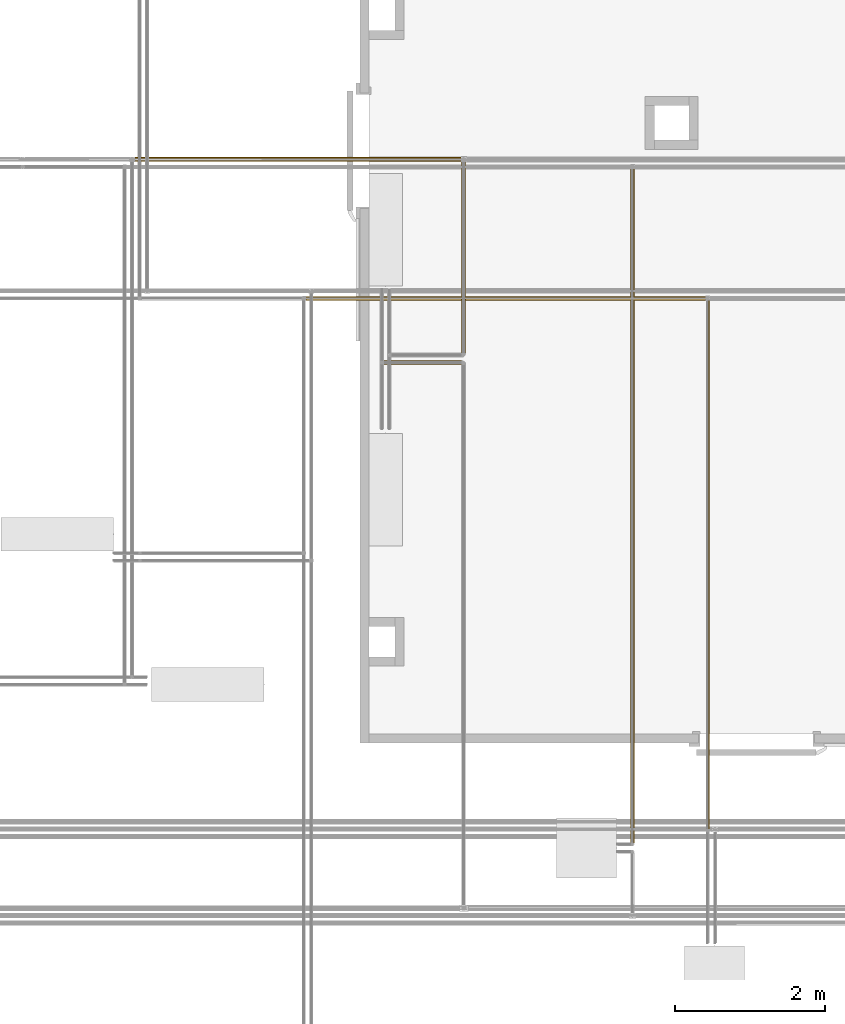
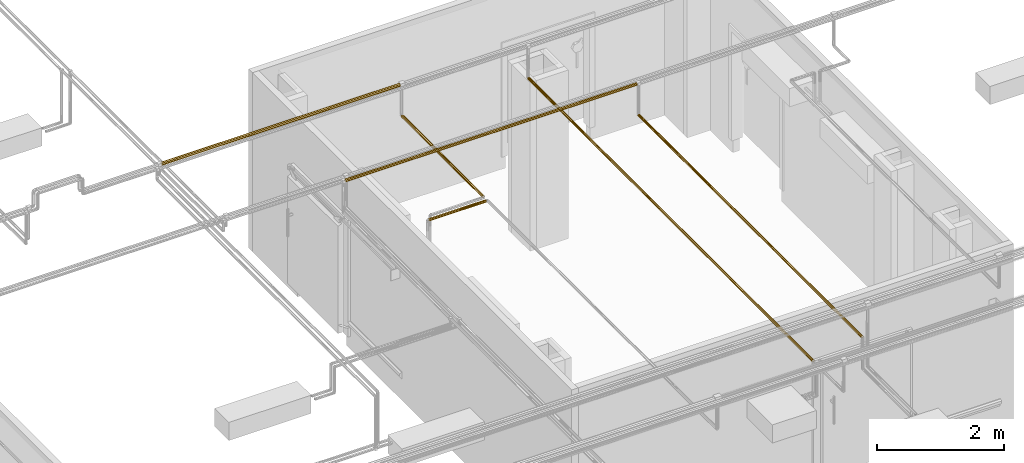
# One storey, part 123 of 652: 6 coverings.
"""IFC2X3 building model written with IfcOpenShell, lengths in millimetres."""

from ifc_helpers import new_model, entity, si_unit, converted_unit, direction, frame, origin, place, context, subcontext, project, spatial, faceted_brep, material, type_object, element, save


model = new_model("IFC2X3")

# Units and contexts
model_context = context("Model", 3, precision=0.01, world=frame((0.0, 0.0, 308426.39999999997)), true_north=direction((6.123233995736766e-17, 1.0)))
plan_context = context("Plan", 3, precision=0.01, world=frame((0.0, 0.0, 308426.39999999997)), true_north=direction((6.123233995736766e-17, 1.0)))
body_context = subcontext(model_context, "Body", "Model", "MODEL_VIEW")
ifc_project = project(units=[si_unit("LENGTHUNIT", "METRE", prefix="MILLI"), si_unit("AREAUNIT", "SQUARE_METRE"), si_unit("VOLUMEUNIT", "CUBIC_METRE"), converted_unit("PLANEANGLEUNIT", "DEGREE", entity("IfcPlaneAngleMeasure", 0.017453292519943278), si_unit("PLANEANGLEUNIT", "RADIAN"), dimensions=[0, 0, 0, 0, 0, 0, 0])], contexts=[model_context, plan_context])

# Site, building, storey
site_placement = place(None, origin())
site = spatial("IfcSite", under=ifc_project, at=site_placement, Name="Default", CompositionType="ELEMENT")
building_placement = place(site_placement, origin())
building = spatial("IfcBuilding", under=site, at=building_placement, CompositionType="ELEMENT")
storey_placement = place(building_placement, frame((0.0, 0.0, 1730.6999999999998)))
storey = spatial("IfcBuildingStorey", under=building, at=storey_placement, Name="EG_Produktion_FFB", CompositionType="ELEMENT", Elevation=1730.6999999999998)

# Coverings
ifc_material = material(Name="Dämmung - Armaflex-Schlauch")
covering_type = type_object("IfcCoveringType", Name="Rohrdämmung außen:Armaflex-Schlauch", PredefinedType="INSULATION")
covering_1_placement = place(storey_placement, frame((40357.04824999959, 69883.29222776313, 3931.707772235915)))
element("IfcCovering", 1, at=covering_1_placement, inside=storey, type_object=covering_type, material=ifc_material, Name="Rohrdämmung außen:Armaflex-Schlauch", ObjectType="Rohrdämmung außen:Armaflex-Schlauch", PredefinedType="INSULATION", context=body_context, shape_type="Brep", body=[
    faceted_brep([(0.0, 1.5952722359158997, -31.707772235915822), (0.0, 4.36535862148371, -25.02019211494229), (0.0, 6.005145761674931, -21.06139576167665), (0.0, 8.210082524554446, -15.738207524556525), (0.0, 10.415019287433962, -10.415019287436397), (0.0, 15.738207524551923, -8.210082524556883), (0.0, 21.061395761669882, -6.005145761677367), (0.0, 26.384583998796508, -3.800208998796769), (0.0, 31.70777223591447, -1.5952722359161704), (0.0, 38.39535235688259, -4.36535862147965), (0.0, 42.35414871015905, -6.005145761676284), (0.0, 47.67733694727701, -8.210082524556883), (0.0, 53.000525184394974, -10.415019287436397), (0.0, 55.20546194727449, -15.738207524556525), (0.0, 57.410398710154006, -21.06139576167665), (0.0, 59.615335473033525, -26.384583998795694), (0.0, 61.82027223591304, -31.707772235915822), (0.0, 59.615335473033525, -37.03096047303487), (0.0, 57.410398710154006, -42.354148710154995), (0.0, 55.20546194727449, -47.67733694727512), (0.0, 53.000525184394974, -53.000525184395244), (0.0, 47.67733694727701, -55.20546194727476), (0.0, 42.35414871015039, -57.41039871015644), (0.0, 37.03096047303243, -59.615335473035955), (0.0, 31.70777223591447, -61.820272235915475), (0.0, 25.02019211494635, -59.050185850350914), (0.0, 21.061395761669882, -57.41039871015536), (0.0, 15.738207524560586, -55.20546194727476), (0.0, 10.415019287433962, -53.000525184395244), (0.0, 8.210082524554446, -47.67733694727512), (0.0, 6.005145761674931, -42.354148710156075), (0.0, 3.8002089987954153, -37.03096047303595), (4338.2159331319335, 15.738207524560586, -55.205461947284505), (4338.2159331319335, 21.06139576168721, -57.41039871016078), (4338.2159331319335, 26.384583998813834, -59.61533547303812), (4338.2159331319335, 31.707772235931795, -61.82027223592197), (4338.2159331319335, 38.39535235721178, -59.05018585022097), (4338.2159331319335, 45.082932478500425, -56.28009946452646), (4338.2159331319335, 53.000525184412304, -53.000525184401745), (4338.2159331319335, 55.205461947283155, -47.677336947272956), (4338.215933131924, 57.410398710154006, -42.35414871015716), (4338.2159331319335, 59.615335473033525, -37.030960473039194), (4338.2159331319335, 61.82027223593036, -31.70777223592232), (4338.2159331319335, 59.05018585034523, -25.02019211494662), (4338.2159331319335, 56.280099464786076, -18.332611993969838), (4338.2159331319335, 53.000525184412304, -10.415019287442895), (4338.2159331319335, 47.677336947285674, -8.210082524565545), (4338.2159331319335, 42.35414871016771, -6.005145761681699), (4338.2159331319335, 37.03096047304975, -3.8002089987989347), (4338.2159331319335, 31.707772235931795, -1.5952722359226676), (4338.2159331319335, 25.020192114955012, -4.36535862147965), (4338.2159331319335, 18.332611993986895, -7.135445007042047), (4338.2159331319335, 10.415019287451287, -10.415019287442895), (4338.2159331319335, 8.21008252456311, -15.738207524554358), (4338.215933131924, 6.005145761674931, -21.06139576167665), (4338.2159331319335, 3.8002089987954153, -26.384583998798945), (4338.2159331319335, 1.5952722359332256, -31.70777223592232), (4338.2159331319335, 4.365358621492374, -38.395352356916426), (4338.2159331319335, 7.135445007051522, -45.08293247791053), (4338.2159331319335, 10.415019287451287, -53.000525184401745)], [[[0, 1, 2, 3, 4, 5, 6, 7, 8, 9, 10, 11, 12, 13, 14, 15, 16, 17, 18, 19, 20, 21, 22, 23, 24, 25, 26, 27, 28, 29, 30, 31]], [[32, 33, 34, 35, 36, 37, 38, 39, 40, 41, 42, 43, 44, 45, 46, 47, 48, 49, 50, 51, 52, 53, 54, 55, 56, 57, 58, 59]], [[40, 39, 38, 20, 19, 18, 17, 16, 42, 41]], [[38, 37, 36, 35, 24, 23, 22, 21, 20]], [[56, 0, 31, 30, 29, 28, 59, 58, 57]], [[27, 26, 25, 24, 35, 34, 33, 32, 59, 28]], [[49, 8, 7, 6, 5, 4, 52, 51, 50]], [[3, 2, 1, 0, 56, 55, 54, 53, 52, 4]], [[42, 16, 15, 14, 13, 12, 45, 44, 43]], [[11, 10, 9, 8, 49, 48, 47, 46, 45, 12]]]),
])
covering_2_placement = place(storey_placement, frame((42633.34874999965, 68036.46722776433, 3928.532772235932)))
element("IfcCovering", 2, at=covering_2_placement, inside=storey, type_object=covering_type, material=ifc_material, Name="Rohrdämmung außen:Armaflex-Schlauch", ObjectType="Rohrdämmung außen:Armaflex-Schlauch", PredefinedType="INSULATION", context=body_context, shape_type="Brep", body=[
    faceted_brep([(0.0, 47.5804611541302, -47.58046115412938), (0.0, 42.81853892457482, -49.552913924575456), (0.0, 38.05661669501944, -51.52536669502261), (0.0, 33.29469446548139, -53.49781946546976), (0.0, 28.532772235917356, -55.470272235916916), (0.0, 23.91722883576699, -53.558451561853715), (0.0, 19.008927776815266, -51.52536669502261), (0.0, 14.247005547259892, -49.552913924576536), (0.0, 9.485083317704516, -47.58046115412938), (0.0, 7.512630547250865, -42.818538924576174), (0.0, 5.54017777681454, -38.05661669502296), (0.0, 3.567725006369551, -33.29469446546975), (0.0, 1.5952722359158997, -28.532772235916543), (0.0, 3.507092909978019, -23.91722883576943), (0.0, 5.54017777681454, -19.008927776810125), (0.0, 7.512630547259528, -14.247005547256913), (0.0, 9.485083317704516, -9.485083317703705), (0.0, 14.247005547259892, -7.51263054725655), (0.0, 19.008927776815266, -5.540177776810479), (0.0, 23.77085000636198, -3.567725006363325), (0.0, 28.532772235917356, -1.5952722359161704), (0.0, 33.14831563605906, -3.5070929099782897), (0.0, 38.05661669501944, -5.540177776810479), (0.0, 42.81853892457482, -7.51263054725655), (0.0, 47.5804611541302, -9.485083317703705), (0.0, 49.552913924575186, -14.247005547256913), (0.0, 51.525366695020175, -19.008927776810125), (0.0, 53.497819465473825, -23.770850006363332), (0.0, 55.47027223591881, -28.532772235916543), (0.0, 53.497819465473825, -33.29469446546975), (0.0, 51.525366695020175, -38.05661669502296), (0.0, 49.552913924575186, -42.818538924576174), (5318.302500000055, 9.485083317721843, -9.485083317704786), (5318.302500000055, 7.512630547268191, -14.247005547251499), (5318.302500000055, 5.54017777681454, -19.008927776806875), (5318.302500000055, 3.567725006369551, -23.770850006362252), (5318.302500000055, 1.5952722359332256, -28.532772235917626), (5318.302500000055, 3.5070929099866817, -33.14831563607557), (5318.302500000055, 5.418913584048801, -37.76385903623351), (5318.302500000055, 7.451998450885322, -42.67216009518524), (5318.302500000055, 9.485083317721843, -47.58046115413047), (5318.302500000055, 14.247005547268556, -49.55291392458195), (5318.302500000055, 19.00892777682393, -51.52536669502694), (5318.302500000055, 23.770850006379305, -53.49781946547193), (5318.302500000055, 28.532772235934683, -55.470272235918), (5318.302500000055, 33.14831563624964, -53.55845156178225), (5318.302500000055, 37.763859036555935, -51.646630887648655), (5318.302500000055, 42.67216009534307, -49.61354602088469), (5318.302500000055, 47.58046115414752, -47.58046115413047), (5318.302500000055, 49.55291392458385, -42.81853892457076), (5318.302500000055, 51.525366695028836, -38.05661669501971), (5318.302500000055, 53.497819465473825, -33.29469446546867), (5318.302500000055, 55.470272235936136, -28.532772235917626), (5318.302500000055, 53.55845156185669, -23.91722883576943), (5318.302500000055, 51.64663088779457, -19.30168543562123), (5318.302500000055, 49.613546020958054, -14.39338437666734), (5318.302500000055, 47.58046115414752, -9.485083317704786), (5318.302500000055, 42.81853892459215, -7.512630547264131), (5318.302500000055, 38.05661669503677, -5.540177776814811), (5318.302500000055, 33.29469446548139, -3.56772500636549), (5318.302500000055, 28.532772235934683, -1.5952722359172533), (5318.302500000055, 23.917228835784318, -3.5070929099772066), (5318.302500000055, 19.301685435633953, -5.4189135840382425), (5318.302500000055, 14.39338437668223, -7.451998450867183)], [[[0, 1, 2, 3, 4, 5, 6, 7, 8, 9, 10, 11, 12, 13, 14, 15, 16, 17, 18, 19, 20, 21, 22, 23, 24, 25, 26, 27, 28, 29, 30, 31]], [[32, 33, 34, 35, 36, 37, 38, 39, 40, 41, 42, 43, 44, 45, 46, 47, 48, 49, 50, 51, 52, 53, 54, 55, 56, 57, 58, 59, 60, 61, 62, 63]], [[50, 49, 48, 0, 31, 30, 29, 28, 52, 51]], [[46, 45, 44, 4, 3, 2, 1, 0, 48, 47]], [[5, 4, 44, 43, 42, 41, 40, 8, 7, 6]], [[8, 40, 39, 38, 37, 36, 12, 11, 10, 9]], [[13, 12, 36, 35, 34, 33, 32, 16, 15, 14]], [[16, 32, 63, 62, 61, 60, 20, 19, 18, 17]], [[21, 20, 60, 59, 58, 57, 56, 24, 23, 22]], [[24, 56, 55, 54, 53, 52, 28, 27, 26, 25]]]),
])
covering_3_placement = place(storey_placement, frame((44705.367160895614, 67333.37172776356, 3273.0547277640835)))
element("IfcCovering", 3, at=covering_3_placement, inside=storey, type_object=covering_type, material=ifc_material, Name="Rohrdämmung außen:Armaflex-Schlauch", ObjectType="Rohrdämmung außen:Armaflex-Schlauch", PredefinedType="INSULATION", context=body_context, shape_type="Brep", body=[
    faceted_brep([(52.29527223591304, 1.5952722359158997, 26.94527223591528), (50.43906146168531, 1.5952722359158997, 31.426561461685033), (48.582850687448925, 1.5952722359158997, 35.90785068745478), (46.72663991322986, 1.5952722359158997, 40.38913991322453), (44.87042913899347, 1.5952722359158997, 44.87042913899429), (40.38913991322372, 1.5952722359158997, 46.726639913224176), (35.90785068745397, 1.5952722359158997, 48.58285068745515), (31.42656146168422, 1.5952722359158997, 50.43906146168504), (26.94527223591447, 1.5952722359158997, 52.29527223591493), (22.86881534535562, 1.5952722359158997, 50.81023609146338), (18.792358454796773, 1.5952722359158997, 49.32519994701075), (14.715901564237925, 1.5952722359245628, 47.840163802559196), (10.639444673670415, 1.5952722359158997, 46.35512765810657), (6.308858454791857, 1.5952722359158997, 38.84516070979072), (1.9782722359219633, 1.5952722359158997, 31.335193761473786), (1.9782722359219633, 1.5952722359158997, 22.555350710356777), (6.308858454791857, 1.5952722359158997, 15.045383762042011), (10.639444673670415, 1.5952722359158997, 7.5354168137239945), (14.715901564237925, 1.5952722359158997, 6.050380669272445), (18.792358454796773, 1.5952722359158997, 4.565344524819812), (22.86881534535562, 1.5952722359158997, 3.080308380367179), (26.94527223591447, 1.5952722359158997, 1.595272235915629), (31.330526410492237, 1.5952722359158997, 3.4117039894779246), (35.90785068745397, 1.5952722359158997, 5.30769378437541), (40.38913991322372, 1.5952722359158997, 7.163904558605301), (44.87042913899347, 1.5952722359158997, 9.020115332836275), (46.72663991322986, 1.5952722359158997, 13.501404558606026), (48.582850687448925, 1.5952722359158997, 17.982693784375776), (50.43906146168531, 1.5952722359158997, 22.46398301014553), (7.535416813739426, 2556.661272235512, 43.251099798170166), (15.04538376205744, 2556.661272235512, 47.581686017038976), (22.55535071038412, 2556.661272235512, 51.91227223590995), (31.335193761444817, 2556.661272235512, 51.912272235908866), (38.8451607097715, 2556.661272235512, 47.58168601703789), (46.35512765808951, 2556.661272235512, 43.25109979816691), (49.02823681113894, 2556.661272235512, 35.913356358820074), (50.66175452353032, 2556.661272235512, 31.42931429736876), (52.29527223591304, 2556.661272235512, 26.945272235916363), (50.47884048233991, 2556.661272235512, 22.560018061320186), (48.66240872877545, 2556.661272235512, 18.174763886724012), (46.76641893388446, 2556.661272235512, 13.597439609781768), (44.87042913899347, 2556.661272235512, 9.020115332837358), (40.38913991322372, 2556.661272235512, 7.1639045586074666), (35.90785068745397, 2556.661272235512, 5.307693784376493), (31.42656146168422, 2556.661272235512, 3.4514830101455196), (26.94527223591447, 2556.661272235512, 1.595272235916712), (22.463983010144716, 2556.661272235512, 3.4514830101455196), (17.982693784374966, 2556.661272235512, 5.307693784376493), (13.501404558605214, 2556.661272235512, 7.1639045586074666), (9.020115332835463, 2556.661272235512, 9.020115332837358), (7.1639045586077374, 2556.661272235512, 13.501404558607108), (5.307693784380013, 2556.661272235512, 17.98269378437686), (3.4514830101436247, 2556.661272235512, 22.463983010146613), (1.5952722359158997, 2556.661272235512, 26.945272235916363), (3.0803083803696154, 2556.661272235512, 31.021729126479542), (4.565344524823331, 2556.661272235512, 35.09818601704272), (6.050380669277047, 2556.661272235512, 39.1746429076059), (1.691203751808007, 1.8823407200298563, 24.741973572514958), (1.5952722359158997, 1.9782722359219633, 26.94527223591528), (29.148570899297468, 2556.374203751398, 52.199340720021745), (26.94527223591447, 2556.278272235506, 52.29527223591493), (24.74197357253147, 2556.374203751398, 52.199340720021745), (1.691203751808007, 1.8823407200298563, 29.148570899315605)], [[[0, 1, 2, 3, 4, 5, 6, 7, 8, 9, 10, 11, 12, 13, 14, 15, 16, 17, 18, 19, 20, 21, 22, 23, 24, 25, 26, 27, 28]], [[29, 30, 31, 32, 33, 34, 35, 36, 37, 38, 39, 40, 41, 42, 43, 44, 45, 46, 47, 48, 49, 50, 51, 52, 53, 54, 55, 56]], [[21, 20, 45]], [[52, 51, 15]], [[18, 47, 19]], [[53, 57, 58]], [[16, 51, 50, 49]], [[52, 57, 53]], [[19, 46, 20]], [[57, 52, 15]], [[51, 16, 15]], [[48, 18, 17]], [[45, 20, 46]], [[16, 49, 17]], [[47, 18, 48]], [[48, 17, 49]], [[46, 19, 47]], [[22, 21, 45, 44, 43, 42, 41, 25, 24, 23]], [[25, 41, 40, 39, 38, 37, 0, 28, 27, 26]], [[35, 1, 36]], [[1, 35, 3, 2]], [[0, 37, 36]], [[33, 32, 6]], [[59, 7, 32]], [[8, 59, 60]], [[35, 34, 3]], [[7, 59, 8]], [[7, 6, 32]], [[33, 6, 5, 4]], [[33, 4, 34]], [[34, 4, 3]], [[0, 36, 1]], [[31, 10, 9]], [[61, 9, 8]], [[61, 31, 9]], [[11, 10, 30, 12]], [[12, 30, 29]], [[13, 29, 56, 55]], [[53, 58, 62]], [[14, 55, 54]], [[62, 14, 54]], [[29, 13, 12]], [[30, 10, 31]], [[8, 60, 61]], [[13, 55, 14]], [[62, 54, 53]], [[58, 57, 15, 14, 62]], [[31, 61, 60, 59, 32]]]),
])
covering_4_placement = place(storey_placement, frame((46954.79588921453, 60816.35497776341, 3274.642227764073)))
element("IfcCovering", 4, at=covering_4_placement, inside=storey, type_object=covering_type, material=ifc_material, Name="Rohrdämmung außen:Armaflex-Schlauch", ObjectType="Rohrdämmung außen:Armaflex-Schlauch", PredefinedType="INSULATION", context=body_context, shape_type="Brep", body=[
    faceted_brep([(1.5952722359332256, 8980.694772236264, 25.35777223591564), (2.6684511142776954, 8980.694772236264, 30.292313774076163), (3.7416299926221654, 8980.694772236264, 35.22685531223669), (6.764379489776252, 8980.694772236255, 39.26743877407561), (9.78712898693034, 8980.694772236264, 43.30802223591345), (40.92841548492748, 8980.694772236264, 43.30802223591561), (43.951164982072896, 8980.694772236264, 39.26743877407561), (46.973914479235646, 8980.694772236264, 35.22685531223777), (48.04709335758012, 8980.694772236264, 30.292313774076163), (49.12027223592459, 8980.694772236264, 25.35777223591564), (47.380303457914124, 8980.694772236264, 21.157116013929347), (45.64033467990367, 8980.694772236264, 16.956459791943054), (43.90036590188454, 8980.694772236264, 12.755803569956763), (42.16039712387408, 8980.694772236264, 8.55514734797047), (37.95974090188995, 8980.694772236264, 6.8151785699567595), (33.759084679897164, 8980.694772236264, 5.075209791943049), (29.558428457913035, 8980.694772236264, 3.335241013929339), (25.357772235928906, 8980.694772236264, 1.595272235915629), (21.15711601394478, 8980.694772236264, 3.335241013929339), (16.95645979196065, 8980.694772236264, 5.075209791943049), (12.755803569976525, 8980.694772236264, 6.8151785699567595), (8.555147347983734, 8980.694772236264, 8.55514734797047), (6.8151785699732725, 8980.694772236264, 12.755803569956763), (5.075209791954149, 8980.694772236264, 16.956459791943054), (3.33524101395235, 8980.694772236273, 21.157116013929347), (1.5952722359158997, 1.5952722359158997, 25.357772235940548), (2.6684511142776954, 1.5952722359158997, 20.423230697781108), (3.7416299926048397, 1.5952722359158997, 15.488689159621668), (6.764379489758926, 1.5952722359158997, 11.448105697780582), (9.78712898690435, 1.5952722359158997, 7.407522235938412), (40.9284154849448, 1.5952722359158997, 7.407522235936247), (43.951164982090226, 1.5952722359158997, 11.448105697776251), (46.973914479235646, 1.5952722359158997, 15.48868915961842), (48.04709335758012, 1.5952722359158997, 20.42323069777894), (49.12027223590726, 1.5952722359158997, 25.357772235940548), (47.089070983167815, 1.5952722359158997, 30.261525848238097), (45.64033467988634, 1.5952722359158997, 33.75908467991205), (43.90036590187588, 1.5952722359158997, 37.95974090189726), (42.160397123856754, 1.5952722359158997, 42.16039712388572), (37.95974090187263, 1.5952722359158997, 43.900365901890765), (33.759084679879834, 1.5952722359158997, 45.64033467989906), (29.55842845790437, 1.5952722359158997, 47.38030345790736), (25.35777223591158, 1.5952722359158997, 49.12027223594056), (21.157116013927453, 1.5952722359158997, 47.380303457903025), (16.956459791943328, 1.5952722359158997, 45.6403346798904), (12.755803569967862, 1.5952722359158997, 43.90036590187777), (8.55514734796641, 1.5952722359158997, 42.16039712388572), (6.8151785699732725, 1.5952722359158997, 37.95974090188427), (5.075209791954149, 1.5952722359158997, 33.75908467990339), (3.335241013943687, 1.5952722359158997, 29.558428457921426), (37.29811477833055, 3.75118055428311, 5.251613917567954), (33.66781407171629, 5.90708887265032, 3.095705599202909), (30.68934281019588, 6.444871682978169, 2.557922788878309), (25.35777223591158, 7.407522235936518, 1.595272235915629), (25.357772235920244, 3534.042971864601, 1.595272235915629), (17.04773040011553, 5.9070888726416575, 3.095705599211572), (20.026201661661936, 6.444871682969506, 2.557922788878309), (13.41742969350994, 3.75118055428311, 5.251613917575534), (13.417429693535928, 8978.538863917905, 45.46393055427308), (25.357772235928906, 5448.2960869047, 49.12027223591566), (17.047730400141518, 8976.382955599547, 47.61983887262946), (20.026201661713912, 8975.84517278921, 48.1576216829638), (25.357772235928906, 8974.882522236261, 49.12027223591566), (33.66781407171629, 8976.382955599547, 47.61983887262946), (30.6893428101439, 8975.845172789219, 48.15762168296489), (37.29811477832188, 8978.538863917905, 45.46393055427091)], [[[0, 1, 2, 3, 4, 5, 6, 7, 8, 9, 10, 11, 12, 13, 14, 15, 16, 17, 18, 19, 20, 21, 22, 23, 24]], [[25, 26, 27, 28, 29, 30, 31, 32, 33, 34, 35, 36, 37, 38, 39, 40, 41, 42, 43, 44, 45, 46, 47, 48, 49]], [[10, 9, 34]], [[12, 32, 31]], [[33, 11, 10]], [[31, 13, 12]], [[12, 11, 32]], [[14, 30, 50]], [[50, 51, 15]], [[52, 53, 54]], [[30, 13, 31]], [[10, 34, 33]], [[13, 30, 14]], [[52, 16, 51]], [[15, 51, 16]], [[32, 11, 33]], [[50, 15, 14]], [[16, 54, 17]], [[16, 52, 54]], [[55, 18, 56]], [[0, 24, 25]], [[56, 18, 54]], [[18, 55, 19]], [[57, 19, 55]], [[27, 22, 28]], [[26, 24, 23]], [[19, 57, 20]], [[18, 17, 54]], [[28, 22, 21]], [[25, 24, 26]], [[27, 23, 22]], [[21, 29, 28]], [[29, 20, 57]], [[54, 53, 56]], [[26, 23, 27]], [[20, 29, 21]], [[3, 47, 46]], [[25, 49, 0]], [[4, 45, 58]], [[48, 2, 1]], [[48, 47, 2]], [[43, 42, 59]], [[45, 44, 58]], [[58, 44, 60]], [[1, 49, 48]], [[0, 49, 1]], [[2, 47, 3]], [[61, 60, 43]], [[46, 45, 4]], [[46, 4, 3]], [[59, 62, 61]], [[43, 60, 44]], [[59, 61, 43]], [[41, 63, 64]], [[37, 36, 7]], [[41, 59, 42]], [[40, 65, 63]], [[65, 40, 39]], [[38, 6, 5]], [[36, 8, 7]], [[39, 38, 5]], [[63, 41, 40]], [[34, 8, 36, 35]], [[41, 64, 59]], [[37, 7, 6]], [[6, 38, 37]], [[59, 64, 62]], [[34, 9, 8]], [[39, 5, 65]], [[63, 65, 5, 4, 58, 60, 61, 62, 64]], [[30, 29, 57, 55, 56, 53, 52, 51, 50]]]),
])
covering_5_placement = place(storey_placement, frame((47954.64222776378, 60998.40472776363, 3325.357772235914)))
element("IfcCovering", 5, at=covering_5_placement, inside=storey, type_object=covering_type, material=ifc_material, Name="Rohrdämmung außen:Armaflex-Schlauch", ObjectType="Rohrdämmung außen:Armaflex-Schlauch", PredefinedType="INSULATION", context=body_context, shape_type="Brep", body=[
    faceted_brep([(9.787128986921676, 7048.6450222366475, -7.407522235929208), (40.92841548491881, 7048.6450222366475, -7.407522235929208), (43.951164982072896, 7048.6450222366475, -11.448105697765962), (46.973914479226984, 7048.6450222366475, -15.48868915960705), (48.047093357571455, 7048.6450222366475, -20.423230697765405), (49.12027223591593, 7048.6450222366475, -25.357772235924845), (47.3803034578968, 7048.6450222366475, -29.558428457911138), (45.64033467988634, 7048.6450222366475, -33.759084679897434), (43.90036590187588, 7048.6450222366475, -37.95974090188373), (42.160397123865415, 7048.6450222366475, -42.16039712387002), (37.95974090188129, 7048.6450222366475, -43.90036590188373), (33.759084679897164, 7048.6450222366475, -45.640334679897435), (29.558428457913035, 7048.6450222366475, -47.38030345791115), (25.357772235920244, 7048.6450222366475, -49.12027223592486), (21.157116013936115, 7048.6450222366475, -47.38030345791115), (16.956459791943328, 7048.6450222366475, -45.640334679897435), (12.755803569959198, 7048.6450222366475, -43.90036590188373), (8.55514734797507, 7048.6450222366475, -42.16039712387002), (6.81517856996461, 7048.6450222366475, -37.95974090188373), (5.075209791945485, 7048.6450222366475, -33.759084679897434), (3.9860824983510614, 7048.6450222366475, -31.129698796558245), (1.5952722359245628, 7048.6450222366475, -25.357772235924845), (2.6684511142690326, 7048.6450222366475, -20.423230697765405), (3.7416299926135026, 7048.6450222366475, -15.48868915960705), (6.764379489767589, 7048.6450222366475, -11.44810569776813), (1.5952722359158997, 1.5952722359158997, -25.357772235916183), (2.6684511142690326, 1.5952722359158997, -30.292313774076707), (3.7416299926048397, 1.5952722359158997, -35.22685531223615), (6.764379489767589, 1.5952722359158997, -39.26743877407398), (9.787128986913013, 1.5952722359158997, -43.30802223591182), (40.92841548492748, 1.5952722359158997, -43.30802223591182), (43.951164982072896, 1.5952722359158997, -39.2674387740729), (46.973914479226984, 1.5952722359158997, -35.22685531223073), (48.047093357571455, 1.5952722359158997, -30.292313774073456), (49.12027223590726, 1.5952722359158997, -25.357772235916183), (46.72946197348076, 1.5952722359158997, -19.585845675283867), (45.64033467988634, 1.5952722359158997, -16.956459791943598), (43.90036590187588, 1.5952722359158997, -12.755803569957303), (42.160397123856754, 1.5952722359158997, -8.55514734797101), (37.95974090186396, 1.5952722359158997, -6.815178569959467), (33.759084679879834, 1.5952722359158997, -5.075209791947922), (29.558428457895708, 1.5952722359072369, -3.3352410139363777), (25.35777223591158, 1.5952722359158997, -1.5952722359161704), (21.157116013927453, 1.5952722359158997, -3.3352410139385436), (16.956459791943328, 1.5952722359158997, -5.075209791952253), (12.755803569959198, 1.5952722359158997, -6.815178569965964), (8.55514734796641, 1.5952722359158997, -8.55514734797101), (6.81517856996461, 1.5952722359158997, -12.7558035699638), (5.075209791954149, 1.5952722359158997, -16.95645979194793), (3.335241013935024, 1.5952722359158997, -21.157116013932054), (33.66781407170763, 5.9070888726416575, -47.61983887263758), (37.29811477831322, 3.75118055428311, -45.463930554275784), (29.512793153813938, 6.6573055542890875, -48.37005555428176), (25.35777223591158, 7.407522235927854, -49.12027223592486), (21.202751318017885, 6.6573055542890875, -48.370055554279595), (17.04773040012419, 5.9070888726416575, -47.61983887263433), (13.417429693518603, 3.75118055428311, -45.46393055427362), (21.20275131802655, 7043.582988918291, -2.345488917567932), (13.417429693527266, 7046.489113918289, -5.251613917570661), (17.047730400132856, 7044.333205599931, -3.0957055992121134), (25.357772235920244, 7042.832772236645, -1.5952722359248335), (29.512793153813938, 7043.582988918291, -2.345488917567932), (33.66781407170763, 7044.333205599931, -3.0957055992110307), (37.29811477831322, 7046.489113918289, -5.2516139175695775)], [[[0, 1, 2, 3, 4, 5, 6, 7, 8, 9, 10, 11, 12, 13, 14, 15, 16, 17, 18, 19, 20, 21, 22, 23, 24]], [[25, 26, 27, 28, 29, 30, 31, 32, 33, 34, 35, 36, 37, 38, 39, 40, 41, 42, 43, 44, 45, 46, 47, 48, 49]], [[34, 6, 5]], [[11, 50, 12]], [[6, 34, 33]], [[33, 7, 6]], [[30, 9, 31]], [[10, 30, 51]], [[51, 50, 11]], [[52, 53, 13]], [[32, 31, 8]], [[31, 9, 8]], [[32, 8, 7]], [[12, 50, 52]], [[9, 30, 10]], [[33, 32, 7]], [[51, 11, 10]], [[52, 13, 12]], [[53, 54, 13]], [[25, 21, 26]], [[14, 54, 55]], [[27, 18, 28]], [[56, 15, 55]], [[17, 29, 28]], [[19, 18, 27, 20]], [[20, 27, 26]], [[13, 54, 14]], [[28, 18, 17]], [[21, 20, 26]], [[15, 56, 16]], [[29, 16, 56]], [[14, 55, 15]], [[16, 29, 17]], [[24, 47, 46]], [[25, 49, 21]], [[48, 23, 22]], [[48, 47, 23]], [[42, 57, 43]], [[0, 45, 58]], [[59, 44, 43]], [[22, 49, 48]], [[44, 59, 58]], [[23, 47, 24]], [[57, 59, 43]], [[21, 49, 22]], [[46, 0, 24]], [[60, 57, 42]], [[45, 0, 46]], [[45, 44, 58]], [[42, 61, 60]], [[35, 3, 37, 36]], [[61, 42, 41]], [[62, 40, 63]], [[2, 38, 37]], [[38, 2, 1]], [[3, 35, 4]], [[1, 39, 38]], [[40, 62, 41]], [[34, 4, 35]], [[1, 63, 39]], [[37, 3, 2]], [[41, 62, 61]], [[34, 5, 4]], [[63, 40, 39]], [[1, 0, 58, 59, 57, 60, 61, 62, 63]], [[50, 51, 30, 29, 56, 55, 54, 53, 52]]]),
])
covering_6_placement = place(storey_placement, frame((43668.37172776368, 67183.05472776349, 3273.0547277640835)))
element("IfcCovering", 6, at=covering_6_placement, inside=storey, type_object=covering_type, material=ifc_material, Name="Rohrdämmung außen:Armaflex-Schlauch", ObjectType="Rohrdämmung außen:Armaflex-Schlauch", PredefinedType="INSULATION", context=body_context, shape_type="Brep", body=[
    faceted_brep([(1038.9737053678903, 52.2952722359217, 26.94527223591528), (1038.9737053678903, 50.0583339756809, 32.34571892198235), (1038.9737053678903, 48.58285068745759, 35.9078506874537), (1038.9737053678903, 46.72663991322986, 40.38913991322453), (1038.9737053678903, 44.870429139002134, 44.87042913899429), (1038.9737053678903, 40.389139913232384, 46.726639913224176), (1038.9737053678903, 35.907850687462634, 48.58285068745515), (1038.9737053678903, 31.426561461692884, 50.43906146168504), (1038.9737053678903, 26.94527223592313, 52.29527223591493), (1038.9737053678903, 21.42316812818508, 50.28359287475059), (1038.9737053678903, 15.90106402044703, 48.271913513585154), (1038.9737053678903, 10.639444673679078, 46.35512765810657), (1038.9737053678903, 6.308858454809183, 38.84516070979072), (1038.9737053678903, 1.9782722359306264, 31.335193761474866), (1038.9737053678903, 1.9782722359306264, 22.55535071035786), (1038.9737053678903, 6.308858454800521, 15.045383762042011), (1038.9737053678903, 10.639444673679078, 7.5354168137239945), (1038.9737053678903, 14.715901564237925, 6.050380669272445), (1038.9737053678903, 18.792358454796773, 4.565344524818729), (1038.9737053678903, 22.868815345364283, 3.080308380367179), (1038.9737053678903, 26.94527223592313, 1.595272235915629), (1038.9737053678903, 31.426561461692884, 3.4514830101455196), (1038.9737053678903, 35.907850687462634, 5.30769378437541), (1038.9737053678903, 40.389139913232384, 7.163904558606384), (1038.9737053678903, 44.870429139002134, 9.020115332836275), (1038.9737053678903, 46.72663991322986, 13.501404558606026), (1038.9737053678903, 48.58285068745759, 17.982693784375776), (1038.9737053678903, 50.439061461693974, 22.46398301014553), (1.5952722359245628, 31.335193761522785, 1.9782722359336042), (1.5952722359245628, 22.555350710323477, 1.9782722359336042), (1.5952722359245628, 15.045383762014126, 6.308858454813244), (1.5952722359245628, 7.535416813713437, 10.639444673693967), (1.5952722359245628, 6.050380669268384, 14.715901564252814), (1.5952722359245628, 4.565344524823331, 18.79235845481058), (1.5952722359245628, 3.0803083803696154, 22.868815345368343), (1.5952722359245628, 1.5952722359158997, 26.94527223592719), (1.5952722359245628, 3.4514830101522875, 31.426561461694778), (1.5952722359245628, 5.307693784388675, 35.907850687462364), (1.5952722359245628, 7.1639045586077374, 40.38913991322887), (1.5952722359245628, 9.020115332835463, 44.8704291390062), (1.5952722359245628, 13.501404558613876, 46.72663991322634), (1.5952722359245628, 17.982693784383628, 48.58285068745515), (1.5952722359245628, 22.463983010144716, 50.43906146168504), (1.5952722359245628, 26.94527223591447, 52.295272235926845), (1.5952722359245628, 32.34571892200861, 50.05833397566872), (1.5952722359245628, 37.74616560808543, 47.821395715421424), (1.5952722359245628, 44.87042913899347, 44.8704291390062), (1.5952722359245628, 46.7266399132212, 40.38913991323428), (1.5952722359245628, 48.58285068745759, 35.90785068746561), (1.5952722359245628, 50.439061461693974, 31.426561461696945), (1.5952722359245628, 52.29527223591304, 26.94527223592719), (1.5952722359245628, 50.28359287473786, 21.42316812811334), (1.5952722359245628, 49.32519994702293, 18.792358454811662), (1.5952722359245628, 47.84016380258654, 14.715901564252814), (1.5952722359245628, 46.35512765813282, 10.63944467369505), (1.5952722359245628, 38.845160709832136, 6.3088584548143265), (1038.590705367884, 1.5952722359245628, 26.94527223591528), (1038.6866368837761, 1.6912037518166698, 24.741973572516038), (1.8823407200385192, 24.741973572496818, 1.6912037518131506), (1.9782722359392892, 26.94527223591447, 1.595272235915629), (1.882340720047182, 29.148570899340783, 1.6912037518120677), (1038.6866368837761, 1.6912037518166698, 29.148570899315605)], [[[0, 1, 2, 3, 4, 5, 6, 7, 8, 9, 10, 11, 12, 13, 14, 15, 16, 17, 18, 19, 20, 21, 22, 23, 24, 25, 26, 27]], [[28, 29, 30, 31, 32, 33, 34, 35, 36, 37, 38, 39, 40, 41, 42, 43, 44, 45, 46, 47, 48, 49, 50, 51, 52, 53, 54, 55]], [[15, 33, 32, 31]], [[34, 33, 14]], [[56, 35, 57]], [[15, 31, 16]], [[33, 15, 14]], [[35, 34, 57]], [[30, 16, 31]], [[19, 18, 29]], [[30, 18, 17, 16]], [[58, 59, 20]], [[18, 30, 29]], [[57, 34, 14]], [[58, 19, 29]], [[20, 19, 58]], [[28, 22, 21]], [[53, 52, 26]], [[21, 60, 28]], [[22, 28, 55]], [[53, 26, 25]], [[50, 0, 27]], [[52, 27, 26]], [[25, 54, 53]], [[55, 24, 23, 22]], [[27, 52, 51, 50]], [[60, 20, 59]], [[24, 55, 54]], [[24, 54, 25]], [[20, 60, 21]], [[43, 8, 7, 6, 5, 4, 46, 45, 44]], [[3, 2, 1, 0, 50, 49, 48, 47, 46, 4]], [[11, 40, 39]], [[8, 42, 9]], [[10, 41, 40]], [[36, 35, 61]], [[39, 12, 11]], [[42, 8, 43]], [[35, 56, 61]], [[10, 9, 41]], [[13, 36, 61]], [[37, 13, 12]], [[12, 39, 38, 37]], [[13, 37, 36]], [[10, 40, 11]], [[42, 41, 9]], [[61, 56, 57, 14, 13]], [[29, 28, 60, 59, 58]]]),
])

save(model, "model.ifc")
